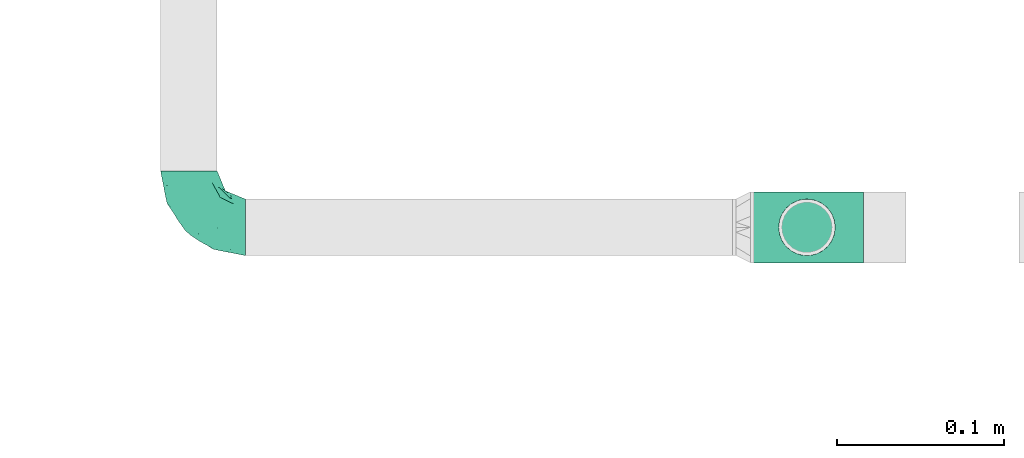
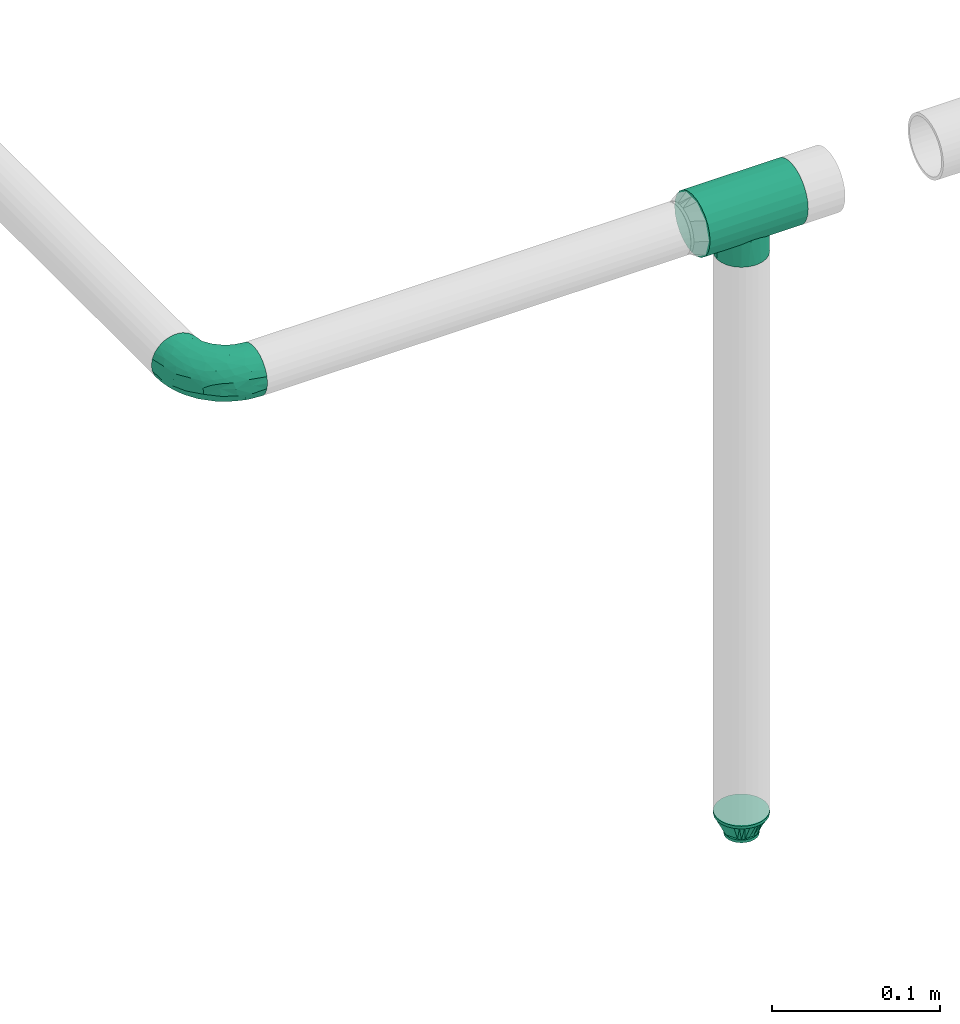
# One storey, part 57 of 94: 3 flow fittings.
"""IFC2X3 building model written with IfcOpenShell, lengths in millimetres."""

from ifc_helpers import new_model, entity, si_unit, converted_unit, derived_unit, direction, frame, origin_with_axes, place, context, subcontext, project, spatial, open_shell, surface_model, source, transform, mapped, type_object, element, save


model = new_model("IFC2X3")

# Units and contexts
model_context = context("Model", 3, precision=0.01, world=frame((0.0, 4.29681676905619e-09, 0.0)), true_north=direction((4.01073788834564e-13, 1.0)))
plan_context = context("Plan", 3, precision=0.01, world=frame((0.0, 4.29681676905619e-09, 0.0)), true_north=direction((4.01073788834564e-13, 1.0)))
body_context = subcontext(model_context, "Body", "Model", "MODEL_VIEW")
ifc_project = project(units=[converted_unit("PLANEANGLEUNIT", "DEGREE", entity("IfcPositiveLengthMeasure", 0.0174532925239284), si_unit("PLANEANGLEUNIT", "RADIAN"), dimensions=[0, 0, 0, 0, 0, 0, 0]), si_unit("AREAUNIT", "SQUARE_METRE"), si_unit("LENGTHUNIT", "METRE", prefix="MILLI"), si_unit("MASSUNIT", "GRAM", prefix="KILO"), si_unit("POWERUNIT", "WATT"), si_unit("PRESSUREUNIT", "PASCAL", prefix="KILO"), si_unit("FORCEUNIT", "NEWTON", prefix="KILO"), si_unit("ELECTRICVOLTAGEUNIT", "VOLT"), si_unit("ELECTRICCURRENTUNIT", "AMPERE"), si_unit("THERMODYNAMICTEMPERATUREUNIT", "DEGREE_CELSIUS"), si_unit("TIMEUNIT", "SECOND"), si_unit("VOLUMEUNIT", "CUBIC_METRE"), derived_unit("LINEARVELOCITYUNIT", [(si_unit("LENGTHUNIT", "METRE"), 1), (si_unit("TIMEUNIT", "SECOND"), -1)]), derived_unit("VOLUMETRICFLOWRATEUNIT", [(si_unit("VOLUMEUNIT", "CUBIC_METRE"), 1), (si_unit("TIMEUNIT", "SECOND"), -1)]), derived_unit("THERMALTRANSMITTANCEUNIT", [(si_unit("POWERUNIT", "WATT"), 1), (si_unit("THERMODYNAMICTEMPERATUREUNIT", "KELVIN"), -1), (si_unit("AREAUNIT", "SQUARE_METRE"), -1)]), derived_unit("SOUNDPRESSUREUNIT", [(si_unit("PRESSUREUNIT", "PASCAL"), 1)])], contexts=[model_context, plan_context])

# Site, building, storey
site_placement = place(None, frame((0.0, -4.29681676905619e-09, 0.0), z_axis=(0.0, 0.0, 1.0), x_axis=(1.0, 0.0, 0.0)))
site = spatial("IfcSite", under=ifc_project, at=site_placement, CompositionType="ELEMENT")
building_placement = place(site_placement, frame((0.0, 4.29681676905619e-09, 0.0), z_axis=(0.0, 0.0, 1.0), x_axis=(1.0, 0.0, 0.0)))
building = spatial("IfcBuilding", under=site, at=building_placement, Name="mc-building", CompositionType="ELEMENT")
storey_placement = place(building_placement, frame((0.0, 0.0, 210900.0), z_axis=(0.0, 0.0, 1.0), x_axis=(1.0, 0.0, 0.0)))
storey = spatial("IfcBuildingStorey", under=building, at=storey_placement, Name="Nivå F", CompositionType="ELEMENT", Elevation=210900.0)

# Flow fittings
pipe_fitting_type_1 = type_object("IfcPipeFittingType", Name="magi_pipe_fe_tee_centric_90_NOR", PredefinedType="JUNCTION")
shared_shape_1 = source(origin_with_axes(), body_context, "Body", "SurfaceModel", [
    surface_model("IfcShellBasedSurfaceModel", [(-33.8, 0.0, -21.2), (-33.8, -5.48696, -20.47763), (-33.8, 5.48696, -20.47763), (-33.8, 10.6, -18.35974), (-33.8, 14.99066, -14.99066), (-33.8, -20.47763, 5.48696), (-33.8, 18.35974, -10.6), (-33.8, 10.6, 18.35974), (-33.8, -14.99066, -14.99066), (-33.8, -18.35974, -10.6), (-33.8, -10.6, -18.35974), (-33.8, -20.47763, -5.48696), (-33.8, -21.2, 0.0), (-33.8, 18.35974, 10.6), (-33.8, 20.47763, -5.48696), (-33.8, 20.47763, 5.48696), (-33.8, 21.2, 0.0), (-33.8, 14.99066, 14.99066), (-33.8, 5.48696, 20.47763), (-33.8, 0.0, 21.2), (-33.8, -18.35974, 10.6), (-33.8, -14.99066, 14.99066), (-33.8, -10.6, 18.35974), (-33.8, -5.48696, 20.47763), (33.8, 5.48696, -20.47763), (33.8, -5.48696, -20.47763), (33.8, 0.0, -21.2), (33.8, 14.99066, -14.99066), (33.8, 10.6, -18.35974), (33.8, 18.35974, -10.6), (33.8, 20.47763, -5.48696), (33.8, -21.2, 0.0), (33.8, -10.6, -18.35974), (33.8, -18.35974, -10.6), (33.8, -14.99066, -14.99066), (33.8, -20.47763, -5.48696), (33.8, -20.47763, 5.48696), (33.8, 21.2, 0.0), (33.8, 20.47763, 5.48696), (33.8, 18.35974, 10.6), (33.8, 10.6, 18.35974), (33.8, 14.99066, 14.99066), (33.8, 0.0, 21.2), (33.8, 5.48696, 20.47763), (33.8, -14.99066, 14.99066), (33.8, -18.35974, 10.6), (33.8, -10.6, 18.35974), (33.8, -5.48696, 20.47763), (16.9, -21.2, 0.0), (15.78624, -20.32327, 6.03364), (12.81343, -18.11115, 11.01935), (8.52479, -15.37862, 14.59239), (3.07939, -13.16482, 16.61708), (-16.9, -21.2, 0.0), (-15.78686, -20.32375, 6.032), (-8.52604, -15.37932, 14.59166), (-3.0848, -13.16609, 16.61608), (-12.81602, -18.11299, 11.01634), (3.07939, -13.16482, -16.61708), (12.81343, -18.11115, -11.01935), (8.52479, -15.37862, -14.59239), (15.78624, -20.32327, -6.03364), (-3.0848, -13.16609, -16.61608), (-8.52604, -15.37932, -14.59166), (-12.81602, -18.11299, -11.01634), (-15.78686, -20.32375, -6.032), (4.37404, -31.8, -16.32415), (-16.9, -31.8, 0.0), (0.0, -31.8, -16.9), (14.63583, -31.8, -8.45), (8.45, -31.8, -14.63583), (16.32415, -31.8, -4.37404), (11.9501, -31.8, -11.9501), (-11.9501, -31.8, -11.9501), (-8.45, -31.8, -14.63583), (-4.37404, -31.8, -16.32415), (-14.63583, -31.8, -8.45), (-16.32415, -31.8, -4.37404), (16.9, -31.8, 0.0), (8.45, -31.8, 14.63583), (16.32415, -31.8, 4.37404), (14.63583, -31.8, 8.45), (-8.45, -31.8, 14.63583), (11.9501, -31.8, 11.9501), (4.37404, -31.8, 16.32415), (-16.32415, -31.8, 4.37404), (-11.9501, -31.8, 11.9501), (-14.63583, -31.8, 8.45), (0.0, -31.8, 16.9), (-4.37404, -31.8, 16.32415), (-16.34343, -20.76188, 3.016), (16.34312, -20.76163, 3.01682), (-0.00271, -13.16546, 16.61658), (16.34312, -20.76163, -3.01682), (-0.00271, -13.16546, -16.61658), (-16.34343, -20.76188, -3.016)], [open_shell([[[0, 1, 2]], [[3, 2, 4]], [[5, 2, 1]], [[4, 2, 6]], [[6, 2, 7]], [[8, 9, 10]], [[1, 10, 9]], [[9, 11, 1]], [[12, 1, 11]], [[5, 1, 12]], [[13, 14, 6]], [[13, 15, 16]], [[6, 7, 13]], [[5, 7, 2]], [[17, 13, 7]], [[18, 7, 19]], [[20, 21, 5]], [[22, 5, 21]], [[23, 19, 22]], [[7, 5, 22]], [[22, 19, 7]], [[16, 14, 13]], [[24, 25, 26]], [[27, 24, 28]], [[29, 30, 24]], [[29, 24, 27]], [[31, 24, 30]], [[32, 33, 34]], [[33, 32, 25]], [[33, 31, 35]], [[31, 33, 25]], [[25, 24, 31]], [[30, 36, 31]], [[37, 38, 39]], [[37, 39, 40]], [[37, 40, 36]], [[40, 39, 41]], [[42, 40, 43]], [[36, 44, 45]], [[44, 36, 46]], [[46, 42, 47]], [[46, 36, 40]], [[40, 42, 46]], [[37, 36, 30]], [[31, 36, 48]], [[49, 48, 36]], [[36, 45, 49]], [[45, 44, 50]], [[51, 50, 44]], [[52, 51, 44]], [[44, 46, 52]], [[45, 50, 49]], [[53, 54, 5]], [[5, 12, 53]], [[54, 20, 5]], [[55, 56, 21]], [[20, 57, 21]], [[57, 20, 54]], [[21, 57, 55]], [[56, 22, 21]], [[52, 22, 56]], [[19, 47, 42]], [[23, 46, 47]], [[18, 42, 43]], [[39, 38, 15]], [[17, 40, 41]], [[13, 41, 39]], [[43, 40, 7]], [[16, 38, 37]], [[22, 46, 23]], [[23, 47, 19]], [[18, 19, 42]], [[43, 7, 18]], [[7, 40, 17]], [[13, 17, 41]], [[15, 13, 39]], [[38, 16, 15]], [[46, 22, 52]], [[6, 30, 29]], [[14, 37, 30]], [[4, 29, 27]], [[26, 25, 1]], [[2, 28, 24]], [[0, 24, 26]], [[27, 28, 3]], [[10, 25, 32]], [[16, 37, 14]], [[14, 30, 6]], [[4, 6, 29]], [[27, 3, 4]], [[3, 28, 2]], [[0, 2, 24]], [[1, 0, 26]], [[25, 10, 1]], [[32, 58, 10]], [[34, 59, 60]], [[59, 34, 33]], [[60, 58, 34]], [[34, 58, 32]], [[35, 31, 48]], [[35, 61, 33]], [[61, 35, 48]], [[33, 61, 59]], [[62, 63, 8]], [[8, 64, 9]], [[64, 8, 63]], [[62, 8, 10]], [[65, 53, 11]], [[65, 11, 9]], [[11, 53, 12]], [[65, 9, 64]], [[58, 62, 10]], [[66, 67, 68]], [[69, 66, 70]], [[69, 71, 66]], [[69, 70, 72]], [[67, 66, 71]], [[68, 73, 74]], [[74, 75, 68]], [[76, 67, 77]], [[73, 68, 76]], [[67, 76, 68]], [[71, 78, 67]], [[79, 78, 80]], [[79, 80, 81]], [[82, 67, 79]], [[79, 81, 83]], [[82, 79, 84]], [[85, 86, 87]], [[86, 85, 82]], [[82, 88, 89]], [[85, 67, 82]], [[84, 88, 82]], [[79, 67, 78]], [[85, 90, 67]], [[57, 87, 86]], [[85, 87, 54]], [[86, 82, 55]], [[85, 54, 90]], [[90, 53, 67]], [[54, 87, 57]], [[91, 49, 80]], [[55, 89, 56]], [[55, 57, 86]], [[88, 52, 92]], [[55, 82, 89]], [[52, 88, 84]], [[79, 51, 84]], [[50, 83, 81]], [[83, 51, 79]], [[81, 80, 49]], [[83, 50, 51]], [[51, 52, 84]], [[78, 91, 80]], [[49, 50, 81]], [[91, 78, 48]], [[88, 56, 89]], [[92, 56, 88]], [[71, 93, 78]], [[59, 69, 72]], [[71, 69, 61]], [[72, 70, 60]], [[93, 48, 78]], [[61, 69, 59]], [[60, 66, 58]], [[60, 59, 72]], [[68, 62, 94]], [[60, 70, 66]], [[95, 67, 53]], [[95, 65, 77]], [[71, 61, 93]], [[75, 62, 68]], [[65, 76, 77]], [[73, 76, 64]], [[68, 58, 66]], [[75, 63, 62]], [[63, 75, 74]], [[74, 73, 63]], [[63, 73, 64]], [[64, 76, 65]], [[67, 95, 77]], [[94, 58, 68]]])]),
])
flow_fitting_1_placement = place(storey_placement, frame((728506.95728, 436418.06941, 3500.0), z_axis=(0.0, -1.0, 0.0), x_axis=(1.0, 0.0, 0.0)))
element("IfcFlowFitting", 1, at=flow_fitting_1_placement, inside=storey, type_object=pipe_fitting_type_1, Name="magi_pipe_fe_tee_centric_90_NOR", context=body_context, shape_type="MappedRepresentation", body=[
    mapped(shared_shape_1, transform((0.0, 0.0, 0.0), scale=1.0)),
])
pipe_fitting_type_2 = type_object("IfcPipeFittingType", Name="magi_pipe_fe_reducer_centric_short_NOR", PredefinedType="TRANSITION")
shared_shape_2 = source(origin_with_axes(), body_context, "Body", "SurfaceModel", [
    surface_model("IfcShellBasedSurfaceModel", [(14.4, 5.35, -9.26647), (14.4, 0.0, -10.7), (14.4, 2.76936, -10.33541), (14.4, 10.33541, -2.76936), (14.4, 7.56604, -7.56604), (14.4, -10.33541, -2.76936), (14.4, 9.26647, -5.35), (14.4, 0.0, 10.7), (14.4, -5.35, -9.26647), (14.4, -2.76936, -10.33541), (14.4, -7.56604, -7.56604), (14.4, -9.26647, -5.35), (14.4, 10.7, 0.0), (14.4, 10.33541, 2.76936), (14.4, 9.26647, 5.35), (14.4, 7.56604, 7.56604), (14.4, 2.76936, 10.33541), (14.4, 5.35, 9.26647), (14.4, -10.33541, 2.76936), (14.4, -7.56604, 7.56604), (14.4, -9.26647, 5.35), (14.4, -10.7, 0.0), (14.4, -2.76936, 10.33541), (14.4, -5.35, 9.26647), (12.4, 2.76936, 10.33541), (12.4, -10.33541, -2.76936), (12.4, 0.0, 10.7), (12.4, 5.35, 9.26647), (12.4, 7.56604, 7.56604), (12.4, 9.26647, 5.35), (12.4, 10.33541, 2.76936), (12.4, -10.33541, 2.76936), (12.4, -2.76936, 10.33541), (12.4, -7.56604, 7.56604), (12.4, -5.35, 9.26647), (12.4, -9.26647, 5.35), (12.4, -10.7, 0.0), (12.4, 10.33541, -2.76936), (12.4, 5.35, -9.26647), (12.4, 9.26647, -5.35), (12.4, 7.56604, -7.56604), (12.4, 2.76936, -10.33541), (12.4, -9.26647, -5.35), (12.4, -5.35, -9.26647), (12.4, -7.56604, -7.56604), (12.4, 0.0, -10.7), (12.4, -2.76936, -10.33541), (12.4, 10.7, 0.0), (-2.0, 11.9501, 11.9501), (-2.0, 0.0, 16.9), (-2.0, 4.37404, 16.32415), (-2.0, 8.45, 14.63583), (-2.0, 14.63583, 8.45), (-2.0, 16.32415, 4.37404), (-2.0, -16.32415, 4.37404), (-2.0, -8.45, 14.63583), (-2.0, -14.63583, 8.45), (-2.0, -11.9501, 11.9501), (-2.0, -4.37404, 16.32415), (-2.0, -16.32415, -4.37404), (-2.0, -16.9, 0.0), (-2.0, -8.45, -14.63583), (-2.0, 16.32415, -4.37404), (-2.0, 11.9501, -11.9501), (-2.0, 14.63583, -8.45), (-2.0, 8.45, -14.63583), (-2.0, 4.37404, -16.32415), (-2.0, 0.0, -16.9), (-2.0, -11.9501, -11.9501), (-2.0, -14.63583, -8.45), (-2.0, -4.37404, -16.32415), (-2.0, 16.9, 0.0), (0.0, 4.37404, -16.32415), (0.0, 8.45, -14.63583), (0.0, 11.9501, -11.9501), (0.0, 0.0, -16.9), (0.0, 16.32415, -4.37404), (0.0, 16.32415, 4.37404), (0.0, 14.63583, -8.45), (0.0, -8.45, -14.63583), (0.0, -4.37404, -16.32415), (0.0, -11.9501, -11.9501), (0.0, -16.32415, -4.37404), (0.0, -14.63583, -8.45), (0.0, -16.32415, 4.37404), (0.0, 16.9, 0.0), (0.0, 14.63583, 8.45), (0.0, 11.9501, 11.9501), (0.0, 4.37404, 16.32415), (0.0, 8.45, 14.63583), (0.0, 0.0, 16.9), (0.0, -14.63583, 8.45), (0.0, -16.9, 0.0), (0.0, -8.45, 14.63583), (0.0, -11.9501, 11.9501), (0.0, -4.37404, 16.32415), (12.4, 9.3625, -2.31662), (0.0, 14.42505, -5.97505), (0.0, 15.66253, -2.98753), (12.4, -6.6875, -6.94985), (0.0, -13.18758, -8.96258), (0.0, 2.98753, -15.66253), (12.4, 0.0, -9.26647), (12.4, 6.6875, -6.94985), (0.0, 8.96258, -13.18758), (12.4, -9.3625, -2.31662), (0.0, -15.66253, -2.98753), (0.0, -14.42505, -5.97505), (0.0, 5.97505, -14.42505), (0.0, -2.98753, -15.66253), (0.0, -8.96258, -13.18758), (0.0, 13.18758, -8.96258), (12.4, 8.025, -4.63324), (12.4, -2.675, -9.26647), (12.4, 2.675, -9.26647), (0.0, -5.97505, -14.42505), (12.4, -8.025, -4.63324), (12.4, -9.3625, 2.31662), (0.0, -14.42505, 5.97505), (0.0, -15.66253, 2.98753), (12.4, 6.6875, 6.94985), (0.0, 13.18758, 8.96258), (0.0, -2.98753, 15.66253), (12.4, 0.0, 9.26647), (12.4, -6.6875, 6.94985), (0.0, -8.96258, 13.18758), (12.4, 9.3625, 2.31662), (0.0, 15.66253, 2.98753), (0.0, 14.42505, 5.97505), (0.0, -5.97505, 14.42505), (0.0, 2.98753, 15.66253), (0.0, 8.96258, 13.18758), (0.0, -13.18758, 8.96258), (12.4, -8.025, 4.63324), (12.4, 2.675, 9.26647), (12.4, -2.675, 9.26647), (0.0, 5.97505, 14.42505), (12.4, 8.025, 4.63324)], [open_shell([[[0, 1, 2]], [[3, 0, 4]], [[5, 0, 3]], [[3, 4, 6]], [[7, 5, 3]], [[1, 8, 9]], [[1, 0, 8]], [[10, 5, 11]], [[5, 10, 8]], [[0, 5, 8]], [[3, 12, 13]], [[13, 14, 15]], [[13, 15, 16]], [[7, 3, 16]], [[16, 15, 17]], [[7, 18, 5]], [[18, 19, 20]], [[21, 5, 18]], [[19, 22, 23]], [[22, 19, 18]], [[7, 22, 18]], [[13, 16, 3]], [[24, 25, 26]], [[27, 25, 24]], [[28, 29, 30]], [[28, 25, 27]], [[31, 26, 25]], [[32, 33, 34]], [[33, 32, 31]], [[33, 31, 35]], [[32, 26, 31]], [[31, 25, 36]], [[30, 37, 28]], [[25, 28, 37]], [[38, 37, 39]], [[37, 38, 25]], [[38, 39, 40]], [[41, 25, 38]], [[42, 43, 44]], [[43, 42, 25]], [[43, 45, 46]], [[43, 25, 41]], [[41, 45, 43]], [[37, 30, 47]], [[25, 5, 36]], [[42, 11, 25]], [[8, 44, 43]], [[42, 44, 10]], [[9, 43, 46]], [[25, 11, 5]], [[5, 21, 36]], [[9, 8, 43]], [[10, 44, 8]], [[10, 11, 42]], [[1, 9, 46]], [[46, 45, 1]], [[41, 2, 45]], [[38, 0, 41]], [[6, 40, 39]], [[38, 40, 4]], [[3, 39, 37]], [[38, 4, 0]], [[0, 2, 41]], [[12, 3, 37]], [[6, 39, 3]], [[6, 4, 40]], [[47, 12, 37]], [[45, 2, 1]], [[30, 13, 47]], [[29, 14, 30]], [[17, 28, 27]], [[29, 28, 15]], [[16, 27, 24]], [[30, 14, 13]], [[13, 12, 47]], [[16, 17, 27]], [[15, 28, 17]], [[15, 14, 29]], [[7, 16, 24]], [[24, 26, 7]], [[32, 22, 26]], [[34, 23, 32]], [[20, 33, 35]], [[34, 33, 19]], [[18, 35, 31]], [[34, 19, 23]], [[23, 22, 32]], [[21, 18, 31]], [[20, 35, 18]], [[20, 19, 33]], [[36, 21, 31]], [[26, 22, 7]], [[48, 49, 50]], [[48, 50, 51]], [[48, 52, 53]], [[48, 53, 49]], [[49, 53, 54]], [[55, 56, 57]], [[55, 58, 49]], [[56, 55, 49]], [[49, 54, 56]], [[54, 59, 60]], [[54, 53, 61]], [[53, 62, 63]], [[63, 62, 64]], [[63, 65, 66]], [[61, 53, 63]], [[67, 63, 66]], [[59, 68, 69]], [[68, 59, 61]], [[61, 67, 70]], [[59, 54, 61]], [[63, 67, 61]], [[53, 71, 62]], [[72, 73, 74]], [[75, 72, 74]], [[74, 76, 77]], [[76, 74, 78]], [[74, 77, 79]], [[75, 79, 80]], [[75, 74, 79]], [[81, 82, 83]], [[82, 81, 79]], [[79, 84, 82]], [[77, 76, 85]], [[77, 86, 87]], [[77, 87, 88]], [[88, 84, 79]], [[88, 87, 89]], [[84, 88, 90]], [[90, 91, 84]], [[92, 82, 84]], [[91, 93, 94]], [[91, 90, 93]], [[93, 90, 95]], [[79, 77, 88]], [[59, 82, 60]], [[69, 83, 59]], [[79, 68, 61]], [[69, 68, 81]], [[80, 61, 70]], [[59, 83, 82]], [[82, 92, 60]], [[80, 79, 61]], [[81, 68, 79]], [[81, 83, 69]], [[75, 80, 70]], [[70, 67, 75]], [[66, 72, 67]], [[65, 73, 66]], [[78, 63, 64]], [[65, 63, 74]], [[76, 64, 62]], [[65, 74, 73]], [[73, 72, 66]], [[85, 76, 62]], [[78, 64, 76]], [[78, 74, 63]], [[71, 85, 62]], [[67, 72, 75]], [[53, 77, 71]], [[52, 86, 53]], [[89, 48, 51]], [[52, 48, 87]], [[88, 51, 50]], [[53, 86, 77]], [[77, 85, 71]], [[88, 89, 51]], [[87, 48, 89]], [[87, 86, 52]], [[90, 88, 50]], [[50, 49, 90]], [[58, 95, 49]], [[55, 93, 58]], [[91, 57, 56]], [[55, 57, 94]], [[84, 56, 54]], [[55, 94, 93]], [[93, 95, 58]], [[92, 84, 54]], [[91, 56, 84]], [[91, 94, 57]], [[60, 92, 54]], [[49, 95, 90]], [[27, 34, 47]], [[47, 34, 43]], [[43, 38, 47]], [[43, 34, 36]], [[90, 87, 94]], [[92, 94, 87]], [[87, 74, 92]], [[75, 92, 74]], [[81, 92, 75]], [[74, 87, 85]], [[96, 97, 98]], [[81, 99, 100]], [[101, 102, 75]], [[98, 85, 47]], [[74, 103, 104]], [[104, 103, 38]], [[105, 106, 107]], [[38, 108, 104]], [[102, 109, 75]], [[110, 99, 81]], [[47, 96, 98]], [[103, 111, 112]], [[109, 102, 113]], [[36, 92, 106]], [[102, 101, 114]], [[110, 115, 43]], [[96, 112, 97]], [[107, 116, 105]], [[36, 106, 105]], [[113, 115, 109]], [[43, 115, 113]], [[116, 107, 100]], [[108, 38, 114]], [[111, 103, 74]], [[111, 97, 112]], [[99, 110, 43]], [[116, 100, 99]], [[101, 108, 114]], [[117, 118, 119]], [[87, 120, 121]], [[122, 123, 90]], [[119, 92, 36]], [[94, 124, 125]], [[125, 124, 34]], [[126, 127, 128]], [[34, 129, 125]], [[123, 130, 90]], [[131, 120, 87]], [[36, 117, 119]], [[124, 132, 133]], [[130, 123, 134]], [[47, 85, 127]], [[123, 122, 135]], [[131, 136, 27]], [[117, 133, 118]], [[128, 137, 126]], [[47, 127, 126]], [[134, 136, 130]], [[27, 136, 134]], [[137, 128, 121]], [[129, 34, 135]], [[132, 124, 94]], [[132, 118, 133]], [[120, 131, 27]], [[137, 121, 120]], [[122, 129, 135]]])]),
])
flow_fitting_2_placement = place(storey_placement, frame((728506.95728, 436418.06941, 3059.35200000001), z_axis=(-0.000893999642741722, -0.99999960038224, 0.0), x_axis=(0.0, 0.0, -1.0)))
element("IfcFlowFitting", 2, at=flow_fitting_2_placement, inside=storey, type_object=pipe_fitting_type_2, Name="magi_pipe_fe_reducer_centric_short_NOR", context=body_context, shape_type="MappedRepresentation", body=[
    mapped(shared_shape_2, transform((0.0, 0.0, 0.0), scale=1.0)),
])
pipe_fitting_type_3 = type_object("IfcPipeFittingType", Name="magi_pipe_fe_elbow_short_001", PredefinedType="BEND")
shared_shape_3 = source(origin_with_axes(), body_context, "Body", "SurfaceModel", [
    surface_model("IfcShellBasedSurfaceModel", [(-33.8, 8.45, -14.63583), (-33.8, 4.37404, -16.32415), (-33.8, 11.9501, -11.9501), (-33.8, -11.9501, -11.9501), (-33.8, -14.63583, -8.45), (-33.8, -8.45, -14.63583), (-33.8, 0.0, -16.9), (-33.8, -4.37404, -16.32415), (-33.8, -4.37404, 16.32415), (-33.8, 0.0, 16.9), (-33.8, -8.45, 14.63583), (-33.8, 16.32415, -4.37404), (-33.8, 14.63583, -8.45), (-33.8, -16.32415, -4.37404), (-33.8, -16.9, 0.0), (-33.8, -16.32415, 4.37404), (-33.8, 11.9501, 11.9501), (-33.8, 14.63583, 8.45), (-33.8, 16.32415, 4.37404), (-33.8, 4.37404, 16.32415), (-33.8, 8.45, 14.63583), (-33.8, -14.63583, 8.45), (-33.8, -11.9501, 11.9501), (-33.8, 16.9, 0.0), (-11.9501, 33.8, -11.9501), (0.0, 33.8, -16.9), (-4.37404, 33.8, -16.32415), (-8.45, 33.8, -14.63583), (-14.63583, 33.8, -8.45), (-16.32415, 33.8, -4.37404), (14.63583, 33.8, -8.45), (8.45, 33.8, 14.63583), (16.32415, 33.8, -4.37404), (8.45, 33.8, -14.63583), (11.9501, 33.8, -11.9501), (4.37404, 33.8, -16.32415), (16.32415, 33.8, 4.37404), (16.9, 33.8, 0.0), (-11.9501, 33.8, 11.9501), (-16.32415, 33.8, 4.37404), (-14.63583, 33.8, 8.45), (-8.45, 33.8, 14.63583), (-4.37404, 33.8, 16.32415), (11.9501, 33.8, 11.9501), (14.63583, 33.8, 8.45), (0.0, 33.8, 16.9), (4.37404, 33.8, 16.32415), (-16.9, 33.8, 0.0), (-24.79389, -13.12945, 9.48721), (-22.19287, -9.75018, 12.59315), (-24.09897, -14.97035, 0.0), (-14.93934, -10.76256, 8.5297), (-22.46095, -14.75051, 5.27077), (14.75051, 22.46094, 5.27077), (11.9251, 13.23888, 4.33236), (13.04069, 14.39795, 0.0), (7.71387, 13.68847, 11.55891), (9.75018, 22.19287, 12.59315), (4.10169, 13.0571, 14.04018), (-24.84007, -6.39063, 15.2048), (-25.81779, -2.23879, 16.61097), (-23.66549, 2.59054, 16.87119), (-26.50418, 14.06512, 11.08152), (-24.21253, 17.66365, 7.72657), (-29.58514, 15.86957, 7.00283), (-6.17382, -7.5455, 0.0), (-13.23888, -11.9251, 4.33236), (-14.39795, -13.04069, 0.0), (-17.81434, 18.87373, 11.97104), (-6.30846, 29.15138, 15.82987), (-2.31622, 25.28002, 16.85849), (-29.23923, 10.23435, 13.77053), (-1.45439, -2.85688, 7.61475), (-0.28326, 0.34872, 10.09509), (-5.74484, -4.04709, 10.4122), (-4.41137, 11.31918, 16.59407), (-8.39727, 3.10034, 15.7812), (-1.72649, 9.1306, 15.53089), (-17.39909, 24.75344, 7.64977), (-26.19233, 20.0512, 0.0), (-28.14518, 17.29657, 4.25857), (-26.05147, 6.6281, 15.96447), (-5.87354, 16.61944, 16.86968), (-12.51807, 12.51807, 16.48937), (-10.06312, 7.38516, 16.81295), (-3.01882, 3.01882, 13.81718), (-13.0571, -4.10169, 14.04018), (-16.82553, -0.15166, 16.38038), (10.76256, 14.93934, 8.5297), (13.12945, 24.79389, 9.48721), (6.39063, 24.84007, 15.2048), (2.23879, 25.81779, 16.61097), (-13.68847, -7.71387, 11.55891), (14.97035, 24.09897, 0.0), (-7.30894, 22.89991, 16.09489), (-10.67958, 26.17414, 14.008), (-12.78295, 18.26924, 15.06066), (-13.88562, 22.45231, 12.93244), (-18.04944, 15.16501, 14.04434), (-23.11658, 20.08178, 4.02986), (-21.84989, 21.84989, 0.0), (-18.55817, 25.48277, 3.93065), (-13.95142, 26.94732, 11.03289), (-18.57098, 7.23906, 16.59756), (-16.58335, 4.14122, 16.89279), (-17.96666, 11.46709, 15.63151), (-9.84453, 17.54304, 16.18938), (0.15166, 16.82553, 16.38038), (-23.27207, 11.47201, 14.23154), (3.84842, 5.86994, 10.70473), (-8.0212, -7.54413, 7.93275), (1.00345, -2.19508, 4.57414), (5.13203, 3.01004, 5.90201), (5.24161, 1.7543, 2.53265), (8.70457, 7.04947, 3.99182), (-20.0512, 26.19233, 0.0), (8.4852, 8.76699, 7.09296), (-4.55488, -6.72064, 4.90681), (2.05031, -2.05031, 0.0), (7.5455, 6.17382, 0.0), (-26.75399, 2.1369, -16.845), (-14.61995, 24.73803, -11.27736), (-28.45274, -13.45335, -9.81895), (-26.00469, 6.63555, -15.96645), (-23.06726, 20.04573, -4.26202), (-13.80647, -4.26506, -14.17873), (-14.67501, -0.21081, -16.07388), (-6.7902, -0.2828, -13.8478), (-24.53586, 11.08096, -14.13417), (-26.72048, 14.00837, -11.05776), (10.0967, 24.44989, -12.75976), (5.83237, 21.40218, -15.03047), (6.66249, 28.54238, -15.38093), (-20.38182, 15.48705, -12.74596), (12.53268, 21.23441, -9.15363), (12.54494, 15.67504, -5.54878), (9.7522, 12.89279, -8.66343), (-15.65186, 19.64213, -13.01327), (-12.03528, 20.66498, -14.67665), (-15.61907, 15.61906, -14.83879), (-25.56551, -15.26206, 0.0), (-24.65452, -15.12934, -5.50955), (13.45335, 28.45274, -9.81895), (15.12934, 24.65452, -5.50955), (-7.35442, -8.31014, -5.65563), (-15.67504, -12.54494, -5.54878), (-24.44989, -10.0967, -12.75976), (0.16522, 0.41303, -9.71728), (-5.70658, -5.33066, -8.89288), (-5.13869, -2.37198, -11.53565), (-21.23441, -12.53268, -9.15363), (0.71146, 7.93863, -14.09382), (0.21081, 14.67501, -16.07388), (3.49291, 14.42772, -14.76381), (-24.89911, -2.13088, -16.591), (-28.54238, -6.66249, -15.38093), (-18.44386, -7.71663, -13.26957), (2.13088, 24.89911, -16.591), (-28.64342, 17.44413, -2.89318), (1.70017, -1.28722, -5.09504), (-16.57067, 26.81947, -7.36596), (-17.69055, 27.4263, -3.76405), (-12.89279, -9.7522, -8.66343), (-5.96611, 5.96611, -15.95814), (-20.53709, 20.09345, -8.28985), (-2.1369, 26.75399, -16.845), (-6.89872, 24.58781, -16.02578), (-10.60739, 26.53157, -13.98044), (-21.40218, -5.83237, -15.03047), (2.93192, 5.89627, -11.55917), (6.89393, 12.61842, -11.82233), (5.58056, 5.95325, -8.79455), (-3.99512, 18.61798, -16.89635), (8.31014, 7.35442, -5.65563), (-9.1383, 9.86148, -16.89041), (-9.99983, 16.02119, -16.39699), (-16.68576, 9.78031, -16.34199), (-27.01915, 16.61158, -7.12979), (15.26206, 25.56551, 0.0), (-18.61798, 3.99512, -16.89635), (-19.37495, 27.82495, 0.0), (-12.61842, -6.89393, -11.82233), (-18.84705, 19.14018, -10.96545)], [open_shell([[[0, 1, 2]], [[3, 4, 5]], [[6, 7, 5]], [[8, 9, 10]], [[1, 6, 2]], [[11, 12, 2]], [[4, 2, 6]], [[2, 13, 10]], [[5, 4, 6]], [[2, 4, 13]], [[14, 15, 13]], [[11, 2, 16]], [[11, 17, 18]], [[11, 16, 17]], [[19, 20, 16]], [[16, 2, 10]], [[19, 16, 10]], [[21, 22, 15]], [[22, 13, 15]], [[22, 10, 13]], [[10, 9, 19]], [[11, 18, 23]], [[24, 25, 26]], [[24, 26, 27]], [[24, 28, 29]], [[25, 24, 30]], [[31, 32, 24]], [[33, 30, 34]], [[33, 35, 25]], [[25, 30, 33]], [[32, 30, 24]], [[32, 36, 37]], [[38, 24, 29]], [[39, 40, 29]], [[40, 38, 29]], [[38, 41, 42]], [[38, 31, 24]], [[31, 38, 42]], [[36, 43, 44]], [[36, 32, 43]], [[31, 45, 46]], [[32, 31, 43]], [[42, 45, 31]], [[39, 29, 47]], [[22, 48, 49]], [[15, 14, 50]], [[51, 48, 52]], [[53, 54, 55]], [[48, 22, 21]], [[15, 52, 21]], [[56, 57, 58]], [[49, 10, 22]], [[49, 59, 10]], [[9, 60, 61]], [[62, 63, 64]], [[65, 66, 67]], [[57, 43, 31]], [[62, 68, 63]], [[42, 69, 70]], [[20, 71, 16]], [[8, 60, 9]], [[72, 73, 74]], [[75, 76, 77]], [[16, 62, 17]], [[40, 39, 78]], [[79, 23, 80]], [[64, 18, 17]], [[9, 61, 19]], [[19, 81, 20]], [[82, 83, 84]], [[74, 85, 86]], [[59, 86, 87]], [[88, 89, 57]], [[90, 31, 46]], [[44, 53, 36]], [[46, 45, 91]], [[54, 53, 88]], [[44, 89, 53]], [[92, 86, 49]], [[89, 44, 43]], [[10, 59, 8]], [[53, 55, 93]], [[93, 36, 53]], [[66, 52, 67]], [[94, 82, 70]], [[95, 96, 94]], [[97, 98, 96]], [[79, 99, 100]], [[41, 38, 95]], [[101, 100, 99]], [[68, 78, 63]], [[42, 41, 69]], [[23, 18, 80]], [[95, 94, 69]], [[78, 101, 99]], [[38, 102, 95]], [[70, 45, 42]], [[97, 95, 102]], [[15, 50, 52]], [[90, 57, 31]], [[57, 90, 58]], [[81, 19, 61]], [[103, 104, 84]], [[105, 81, 103]], [[38, 40, 102]], [[106, 96, 83]], [[94, 106, 82]], [[91, 70, 107]], [[71, 62, 16]], [[62, 108, 98]], [[86, 59, 49]], [[67, 52, 50]], [[60, 59, 87]], [[92, 49, 51]], [[86, 85, 76]], [[91, 90, 46]], [[37, 36, 93]], [[107, 77, 58]], [[107, 58, 90]], [[58, 85, 109]], [[110, 74, 92]], [[72, 74, 110]], [[66, 51, 52]], [[72, 111, 112]], [[113, 114, 112]], [[56, 88, 57]], [[52, 48, 21]], [[49, 48, 51]], [[57, 89, 43]], [[53, 89, 88]], [[103, 81, 61]], [[71, 81, 108]], [[18, 64, 80]], [[63, 78, 99]], [[47, 115, 101]], [[101, 115, 100]], [[40, 78, 102]], [[68, 102, 78]], [[97, 96, 95]], [[105, 98, 108]], [[103, 84, 83]], [[107, 70, 82]], [[76, 84, 87]], [[82, 84, 75]], [[70, 91, 45]], [[90, 91, 107]], [[59, 60, 8]], [[61, 60, 87]], [[73, 85, 74]], [[109, 112, 116]], [[103, 61, 104]], [[105, 103, 83]], [[96, 105, 83]], [[81, 105, 108]], [[96, 98, 105]], [[62, 98, 68]], [[61, 87, 104]], [[87, 84, 104]], [[86, 76, 87]], [[77, 76, 85]], [[58, 77, 85]], [[75, 77, 107]], [[82, 75, 107]], [[76, 75, 84]], [[81, 71, 20]], [[62, 71, 108]], [[95, 69, 41]], [[70, 69, 94]], [[62, 64, 17]], [[80, 63, 99]], [[63, 80, 64]], [[80, 99, 79]], [[66, 65, 117]], [[110, 66, 117]], [[112, 114, 116]], [[118, 117, 65]], [[110, 92, 51]], [[112, 111, 113]], [[119, 55, 54]], [[74, 86, 92]], [[58, 109, 56]], [[116, 56, 109]], [[66, 110, 51]], [[72, 110, 117]], [[111, 72, 117]], [[73, 112, 109]], [[117, 118, 111]], [[113, 111, 118]], [[118, 119, 113]], [[114, 119, 54]], [[119, 114, 113]], [[116, 54, 88]], [[54, 116, 114]], [[116, 88, 56]], [[112, 73, 72]], [[85, 73, 109]], [[78, 39, 101]], [[47, 101, 39]], [[102, 68, 97]], [[97, 68, 98]], [[82, 106, 83]], [[94, 96, 106]], [[1, 120, 6]], [[28, 24, 121]], [[3, 122, 4]], [[0, 123, 1]], [[100, 124, 79]], [[125, 126, 127]], [[128, 2, 129]], [[130, 131, 132]], [[128, 129, 133]], [[134, 135, 136]], [[137, 138, 139]], [[128, 0, 2]], [[67, 140, 141]], [[134, 142, 143]], [[141, 13, 4]], [[144, 65, 145]], [[146, 3, 5]], [[147, 148, 149]], [[145, 141, 150]], [[151, 152, 153]], [[154, 7, 6]], [[5, 155, 146]], [[150, 146, 156]], [[155, 5, 7]], [[143, 135, 134]], [[35, 157, 25]], [[23, 79, 158]], [[148, 159, 144]], [[160, 161, 29]], [[145, 162, 144]], [[163, 152, 151]], [[29, 28, 160]], [[121, 164, 160]], [[33, 34, 130]], [[25, 165, 26]], [[26, 165, 166]], [[142, 34, 30]], [[24, 27, 167]], [[124, 161, 164]], [[157, 35, 132]], [[155, 154, 168]], [[123, 0, 128]], [[169, 170, 171]], [[172, 157, 152]], [[26, 166, 27]], [[132, 35, 33]], [[142, 130, 34]], [[168, 154, 126]], [[136, 135, 173]], [[133, 137, 139]], [[2, 12, 129]], [[170, 131, 130]], [[30, 32, 143]], [[172, 174, 175]], [[176, 123, 128]], [[158, 177, 11]], [[135, 55, 119]], [[167, 27, 166]], [[175, 166, 172]], [[137, 167, 138]], [[122, 141, 4]], [[140, 14, 13]], [[32, 37, 178]], [[170, 130, 134]], [[152, 157, 131]], [[165, 157, 172]], [[153, 170, 151]], [[152, 163, 174]], [[168, 125, 156]], [[122, 146, 150]], [[120, 154, 6]], [[179, 174, 126]], [[179, 126, 154]], [[126, 163, 127]], [[162, 145, 150]], [[140, 13, 141]], [[32, 178, 143]], [[55, 143, 178]], [[177, 129, 12]], [[128, 133, 139]], [[176, 128, 139]], [[120, 123, 179]], [[121, 160, 28]], [[161, 100, 180]], [[166, 175, 138]], [[121, 24, 167]], [[161, 47, 29]], [[79, 124, 158]], [[124, 164, 177]], [[161, 124, 100]], [[136, 171, 170]], [[127, 163, 151]], [[147, 171, 159]], [[148, 144, 162]], [[127, 151, 169]], [[127, 181, 125]], [[129, 177, 164]], [[12, 11, 177]], [[159, 65, 144]], [[67, 141, 145]], [[143, 55, 135]], [[135, 119, 173]], [[123, 120, 1]], [[154, 120, 179]], [[157, 165, 25]], [[166, 165, 172]], [[172, 152, 174]], [[176, 139, 175]], [[126, 174, 163]], [[176, 174, 179]], [[174, 176, 175]], [[123, 176, 179]], [[150, 181, 162]], [[127, 149, 181]], [[181, 148, 162]], [[159, 148, 147]], [[171, 136, 173]], [[170, 134, 136]], [[159, 171, 173]], [[171, 147, 169]], [[169, 147, 149]], [[151, 170, 169]], [[164, 182, 129]], [[182, 121, 137]], [[181, 149, 148]], [[169, 149, 127]], [[182, 137, 133]], [[167, 137, 121]], [[166, 138, 167]], [[175, 139, 138]], [[129, 182, 133]], [[121, 182, 164]], [[161, 160, 164]], [[47, 161, 180]], [[177, 158, 124]], [[23, 158, 11]], [[130, 132, 33]], [[157, 132, 131]], [[143, 142, 30]], [[130, 142, 134]], [[154, 155, 7]], [[146, 155, 168]], [[146, 122, 3]], [[141, 122, 150]], [[152, 131, 153]], [[159, 119, 118]], [[67, 145, 65]], [[170, 153, 131]], [[119, 159, 173]], [[159, 118, 65]], [[156, 125, 181]], [[126, 125, 168]], [[150, 156, 181]], [[168, 156, 146]]])]),
])
flow_fitting_3_placement = place(storey_placement, frame((728137.10222, 436418.06941, 3500.0), z_axis=(0.0, 0.0, 1.0), x_axis=(0.0, -1.0, 0.0)))
element("IfcFlowFitting", 3, at=flow_fitting_3_placement, inside=storey, type_object=pipe_fitting_type_3, Name="magi_pipe_fe_elbow_short_001", context=body_context, shape_type="MappedRepresentation", body=[
    mapped(shared_shape_3, transform((0.0, 0.0, 0.0), scale=1.0)),
])

save(model, "model.ifc")
